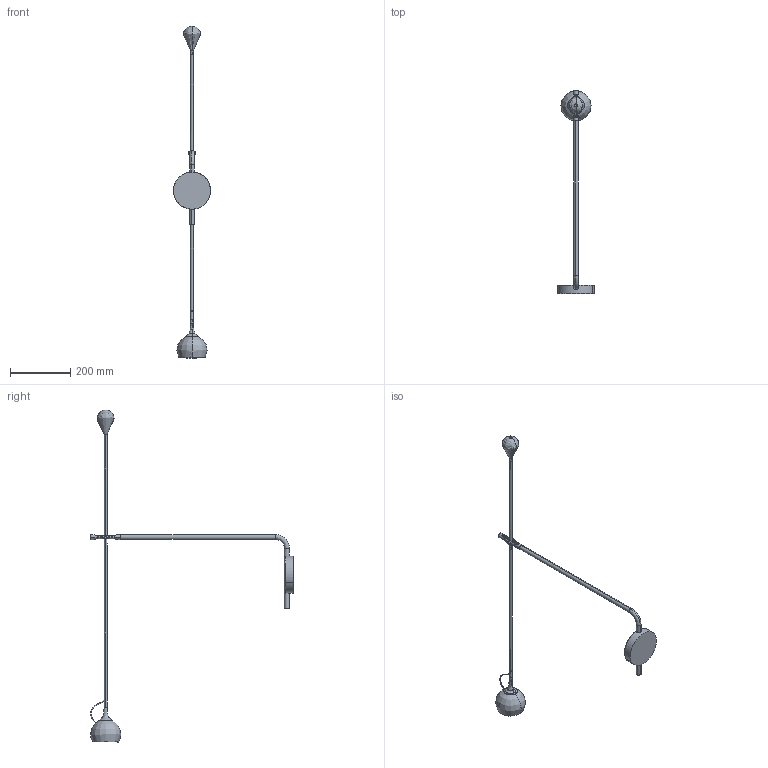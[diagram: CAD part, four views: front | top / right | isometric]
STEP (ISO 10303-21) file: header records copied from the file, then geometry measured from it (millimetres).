
FILE_DESCRIPTION(/* description */ (''),/* implementation_level */ '2;1');
FILE_NAME(/* name */ '087695_--IXA WALL ARM_SEMPL',/* time_stamp */ '2022-12-12T17:57:19+01:00',/* author */ (''),/* organization */ (''),/* preprocessor_version */ 'ST-DEVELOPER v16.5',/* originating_system */ 'Rhino 7.22',/* authorisation */ '');
FILE_SCHEMA (('AUTOMOTIVE_DESIGN'));
Length unit declared in the file: millimetre
Products named in the file (12): Document; Y201003232_--PULSANTE; WAP6161_--IXA LAV. SFERA CON PERNO SALDATO_MODEL; Y102016299_--SFERA METALLICA D100; Y104004611_--TUBOLARE D10; Y203001026_--VELLUTO ADESIVO FUST. X SFERA; Y104004690_--BOCCOLA PER FRIZIONE D3; X314000715_--VITE TC EI ZN M3X20; Y203001014_--TAPPO FUST. COPRIVITE FORCELLA; Y101001364_--FORCELLA D16; Y104004507_--RACCORDO TESTA; Y203001027_--RONDELLA FUST.D15X10
Assembly tree (12 placements, depth 3):
  Document
    Y201003232_--PULSANTE
    WAP6161_--IXA LAV. SFERA CON PERNO SALDATO_MODEL
      Y102016299_--SFERA METALLICA D100
    Y104004611_--TUBOLARE D10
    Y203001026_--VELLUTO ADESIVO FUST. X SFERA
    Y104004690_--BOCCOLA PER FRIZIONE D3  x2
    X314000715_--VITE TC EI ZN M3X20
    Y203001014_--TAPPO FUST. COPRIVITE FORCELLA
    Y101001364_--FORCELLA D16
    Y104004507_--RACCORDO TESTA
    Y203001027_--RONDELLA FUST.D15X10
Bounding box: 122.98 x 673.75 x 1102.2 mm (x, y, z)
Volume: 727560.4 mm3; surface area: 204780.2 mm2
Topology: 16 solids, 26 shells, 394 faces, 1033 edges, 654 vertices
Faces by surface type: bspline 230, cylinder 98, plane 66
Entity records: 91322 total; most frequent: CARTESIAN_POINT 83154, ORIENTED_EDGE 1939, EDGE_CURVE 992, VERTEX_POINT 636, B_SPLINE_CURVE_WITH_KNOTS 542, EDGE_LOOP 415, ADVANCED_FACE 385, FACE_OUTER_BOUND 385
